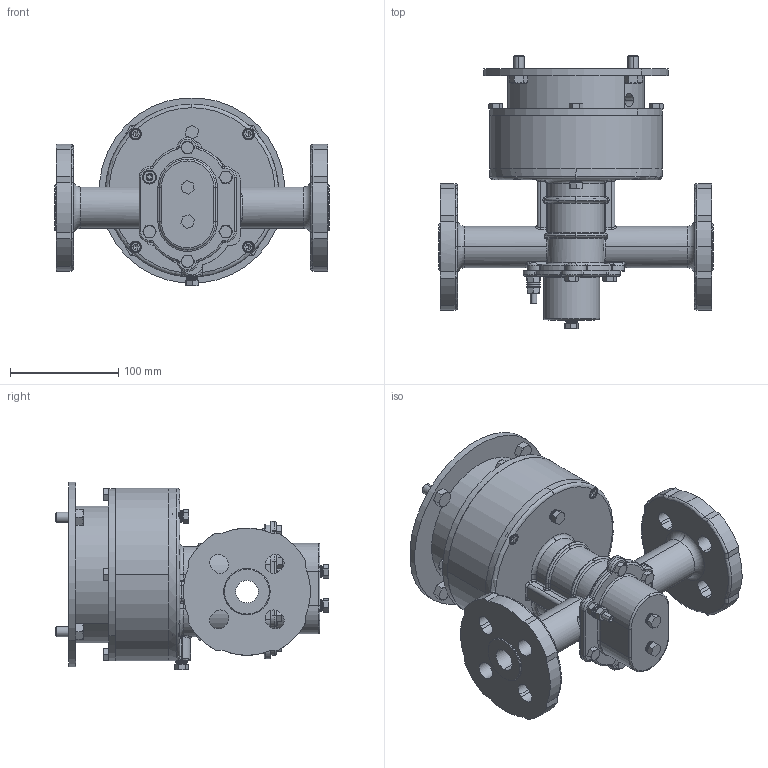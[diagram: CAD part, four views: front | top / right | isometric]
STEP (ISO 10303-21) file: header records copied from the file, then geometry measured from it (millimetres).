
FILE_DESCRIPTION (( 'STEP AP214' ), '1' );
FILE_NAME ('E25M FLNG 56C-143-5TC NO MTR.STEP', '2025-07-11T13:38:57', ( '' ), ( '' ), 'SwSTEP 2.0', 'SolidWorks 2024', '' );
FILE_SCHEMA (( 'AUTOMOTIVE_DESIGN' ));
Length unit declared in the file: inch
Products named in the file (16): external tooth lock washer_ai_ASME B18.21.1 - 0.256; hex nut_ai_HNUT 0.2500-28-D-N; socket set screw cup point_ai_SSCUPSKT 0.19-24x0.375-HX-N; W772565_4452K541; socket head cap screw_ai_HX-SHCS 0.25-28x0.625x0.625-N; hex bolt_ai_HBOLT 0.3750-16x0.75x0.75-N; hex bolt_ai_HBOLT 0.2500-28x0.5x0.5-N; square key_ai_Key B17.1 0.1875x0.1875x1.75; hex bolt_ai_HBOLT 0.2500-28x0.75x0.75-N; E25M FLNG 56C-143-5TC NO MTR; NG040059_MACHINE; flat washer type b narrow_ai_Narrow FW 0.25; NG020017_MACHINE; socket set screw cup point_ai_SSCUPSKT 0.25-28x1.5-HX-N; 49627; 49610
Assembly tree (34 placements, depth 2):
  E25M FLNG 56C-143-5TC NO MTR
    NG040059_MACHINE
    NG020017_MACHINE
    49610
    49627
    hex bolt_ai_HBOLT 0.2500-28x0.75x0.75-N  x4
    socket head cap screw_ai_HX-SHCS 0.25-28x0.625x0.625-N  x4
    socket set screw cup point_ai_SSCUPSKT 0.19-24x0.375-HX-N
    hex bolt_ai_HBOLT 0.3750-16x0.75x0.75-N  x4
    W772565_4452K541  x4
    hex bolt_ai_HBOLT 0.2500-28x0.5x0.5-N  x5
    square key_ai_Key B17.1 0.1875x0.1875x1.75
    socket set screw cup point_ai_SSCUPSKT 0.25-28x1.5-HX-N
    hex nut_ai_HNUT 0.2500-28-D-N  x2
    external tooth lock washer_ai_ASME B18.21.1 - 0.256  x2
    flat washer type b narrow_ai_Narrow FW 0.25  x2
Bounding box: 253.91 x 252.92 x 173.54 mm (x, y, z)
Volume: 1359623.1 mm3; surface area: 383430 mm2
Topology: 34 solids, 34 shells, 1653 faces, 4388 edges, 2797 vertices
Faces by surface type: cylinder 513, plane 456, cone 337, torus 249, bspline 56, sphere 42
Entity records: 43206 total; most frequent: CARTESIAN_POINT 14039, DIRECTION 6381, ORIENTED_EDGE 5856, EDGE_CURVE 2928, AXIS2_PLACEMENT_3D 2683, VERTEX_POINT 1815, CIRCLE 1517, EDGE_LOOP 1303
